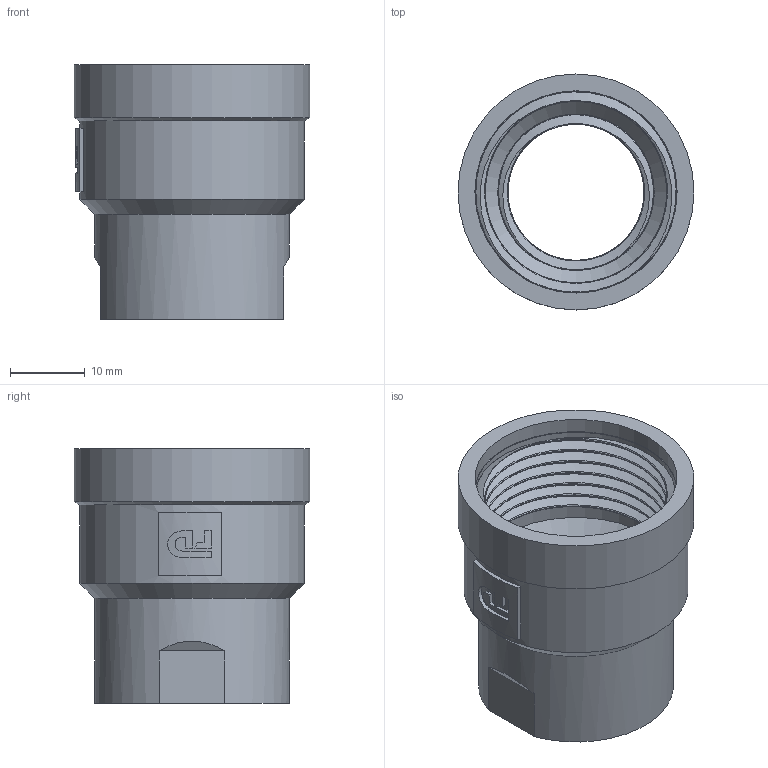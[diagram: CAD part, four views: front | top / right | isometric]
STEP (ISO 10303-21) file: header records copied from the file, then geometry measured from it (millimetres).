
FILE_DESCRIPTION(/* description */ (''),/* implementation_level */ '2;1');
FILE_NAME(/* name */ 'C:\Users\Doom\Desktop\Фадотех\Резьба\M14 18.03.2020\M14 18.03.2020.stp',/* time_stamp */ '2022-01-05T00:36:13+02:00',/* author */ ('Doom'),/* organization */ (''),/* preprocessor_version */ 'ST-DEVELOPER v18',/* originating_system */ 'Autodesk Inventor 2020',/* authorisation */ '');
FILE_SCHEMA (('AUTOMOTIVE_DESIGN { 1 0 10303 214 3 1 1 }'));
Length unit declared in the file: millimetre
Products named in the file (1): M14 18.03.2020
Bounding box: 31.5 x 31.5 x 34 mm (x, y, z)
Volume: 8296.6 mm3; surface area: 11624.3 mm2
Topology: 3 solids, 3 shells, 79 faces, 216 edges, 145 vertices
Faces by surface type: cylinder 30, plane 29, bspline 16, cone 4
Full cylindrical faces by diameter (mm): 18.164 x7, 20.855 x2, 21.2 x1, 24.225 x7, 26 x1, 26.915 x2, 27 x1, 30 x1, 31.5 x1
Entity records: 10382 total; most frequent: CARTESIAN_POINT 8470, ORIENTED_EDGE 424, DIRECTION 331, EDGE_CURVE 212, VERTEX_POINT 143, AXIS2_PLACEMENT_3D 129, EDGE_LOOP 89, FACE_OUTER_BOUND 79
